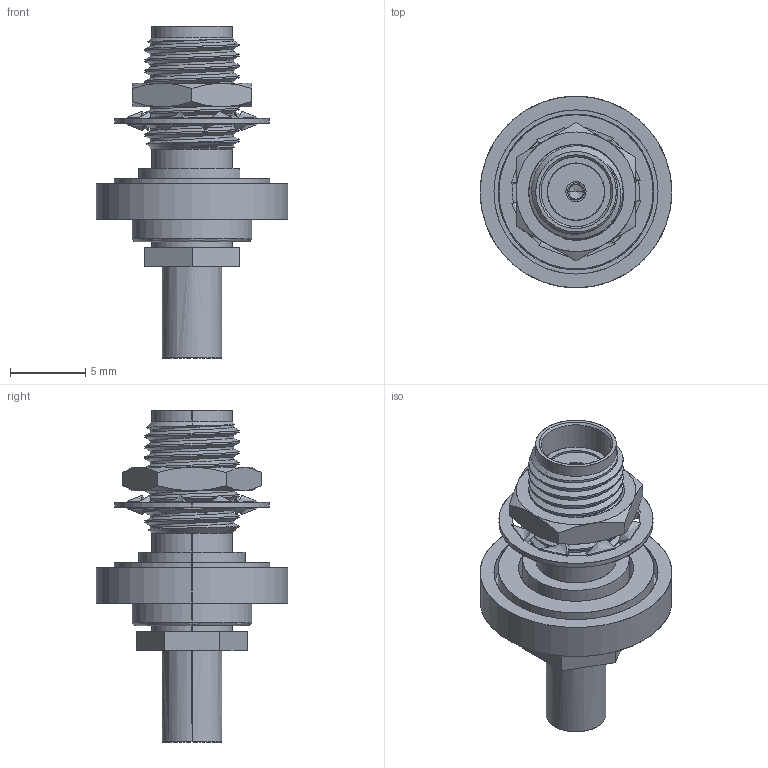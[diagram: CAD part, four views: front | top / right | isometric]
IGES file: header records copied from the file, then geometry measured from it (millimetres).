
Start section: SolidWorks IGES file using analytic representation for surfaces
Global section: file name: C:\Users\sculpepper\Desktop\1316037K66E-000igs.IGS; native system: SolidWorks 2017; preprocessor: SolidWorks 2017; author: sculpepper; date: 170919.082659; units: inch
Bounding box: 12.7 x 12.7 x 22 mm (x, y, z)
Surface area: 1653.9 mm2 (no closed solid volume)
Topology: 0 solids, 0 shells, 282 faces, 4338 edges, 4336 vertices
Faces by surface type: revolution 145, bspline 137
